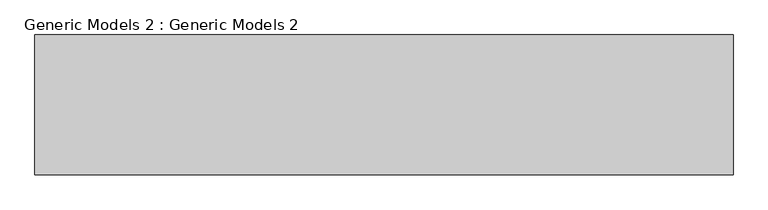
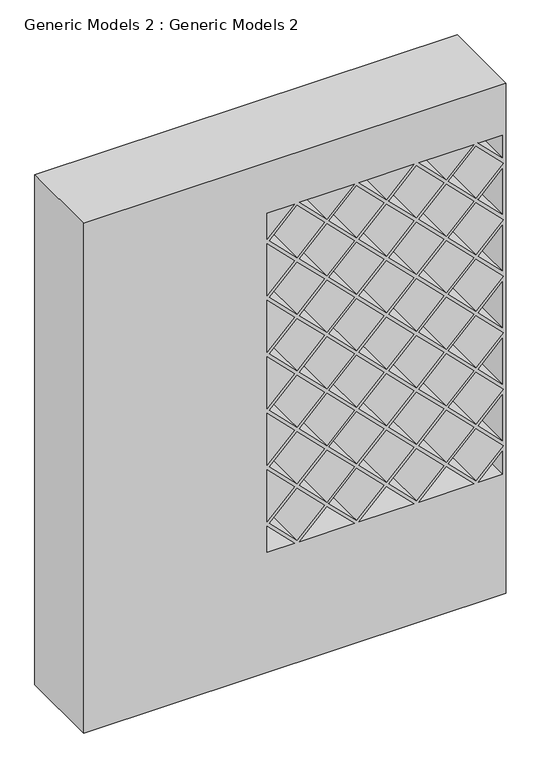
"""IFC4 building model written with IfcOpenShell, lengths in millimetres: proxy geometry, Generic Models 2 : Generic Models 2."""

from ifc_helpers import new_model, si_unit, frame, origin, place, context, project, spatial, polyline, outline, extrude, faceted_brep, source, transform, mapped, element, save


def generic_models_2_generic_models_2_30429d09(model_context):
    return source(origin(), model_context, "Body", "SolidModel", [
        extrude(outline(polyline([(-2100.9899912, -2449.0471901), (-1252.4433837, -2449.0471901), (-1252.4433837, -2465.0471901), (-2100.9899912, -2465.0471901), (-2100.9899912, -2449.0471901)])), frame((0.0, 0.0, 447.5), z_axis=(0.0, 0.0, 1.0), x_axis=(1.0, 0.0, 0.0)), (0.0, 0.0, 1.0), 130.5),
        extrude(outline(polyline([(-1250.4433837, -2449.0471901), (-136.9899912, -2449.0471901), (-136.9899912, -2465.0471901), (-1250.4433837, -2465.0471901), (-1250.4433837, -2449.0471901)])), frame((0.0, 0.0, 316.0), z_axis=(0.0, 0.0, 1.0), x_axis=(1.0, 0.0, 0.0)), (0.0, 0.0, 1.0), 262.0),
        extrude(outline(polyline([(-1250.4433837, -2449.0471901), (-136.9899912, -2449.0471901), (-136.9899912, -2465.0471901), (-1250.4433837, -2465.0471901), (-1250.4433837, -2449.0471901)])), frame((0.0, 0.0, 52.0), z_axis=(0.0, 0.0, 1.0), x_axis=(1.0, 0.0, 0.0)), (0.0, 0.0, 1.0), 262.0),
        extrude(outline(polyline([(-2100.9899912, -2449.0471901), (-1252.4433837, -2449.0471901), (-1252.4433837, -2465.0471901), (-2100.9899912, -2465.0471901), (-2100.9899912, -2449.0471901)])), frame((0.0, 0.0, 52.0), z_axis=(0.0, 0.0, 1.0), x_axis=(1.0, 0.0, 0.0)), (0.0, 0.0, 1.0), 130.5),
        extrude(outline(polyline([(-2100.9899912, -2449.0471901), (-1252.4433837, -2449.0471901), (-1252.4433837, -2465.0471901), (-2100.9899912, -2465.0471901), (-2100.9899912, -2449.0471901)])), frame((0.0, 0.0, 316.0), z_axis=(0.0, 0.0, 1.0), x_axis=(1.0, 0.0, 0.0)), (0.0, 0.0, 1.0), 129.5),
        extrude(outline(polyline([(-2100.9899912, -2449.0471901), (-1252.4433837, -2449.0471901), (-1252.4433837, -2465.0471901), (-2100.9899912, -2465.0471901), (-2100.9899912, -2449.0471901)])), frame((0.0, 0.0, 184.5), z_axis=(0.0, 0.0, 1.0), x_axis=(1.0, 0.0, 0.0)), (0.0, 0.0, 1.0), 129.5),
        extrude(outline(polyline([(-2097.9899912, -2459.0471901), (-1690.7166874, -2459.0471901), (-1690.7166874, -2469.0471901), (-2097.9899912, -2469.0471901), (-2097.9899912, -2459.0471901)])), frame((0.0, 0.0, 605.0), z_axis=(0.0, 0.0, 1.0), x_axis=(1.0, 0.0, 0.0)), (0.0, 0.0, 1.0), 1689.6018345),
        faceted_brep([(-2092.9899912, -2469.0471901, 2289.6018345), (-2092.9899912, -2479.0471901, 2289.6018345), (-2092.9899912, -2479.0471901, 610.0), (-2092.9899912, -2469.0471901, 610.0), (-2097.9899912, -2459.0471901, 2294.6018345), (-2097.9899912, -2469.0471901, 2294.6018345), (-2097.9899912, -2469.0471901, 605.0), (-2097.9899912, -2459.0471901, 605.0), (-2092.9899912, -2449.0471901, 2289.6018345), (-2092.9899912, -2459.0471901, 2289.6018345), (-2092.9899912, -2459.0471901, 610.0), (-2092.9899912, -2449.0471901, 610.0), (-2102.9899912, -2479.0471901, 2299.6018345), (-2102.9899912, -2449.0471901, 2299.6018345), (-2102.9899912, -2449.0471901, 600.0), (-2102.9899912, -2479.0471901, 600.0), (-1695.7166874, -2479.0471901, 610.0), (-1695.7166874, -2469.0471901, 610.0), (-1690.7166874, -2469.0471901, 605.0), (-1690.7166874, -2459.0471901, 605.0), (-1695.7166874, -2459.0471901, 610.0), (-1695.7166874, -2449.0471901, 610.0), (-1685.7166874, -2449.0471901, 600.0), (-1685.7166874, -2479.0471901, 600.0), (-1695.7166874, -2479.0471901, 2289.6018345), (-1695.7166874, -2469.0471901, 2289.6018345), (-1690.7166874, -2469.0471901, 2294.6018345), (-1690.7166874, -2459.0471901, 2294.6018345), (-1695.7166874, -2459.0471901, 2289.6018345), (-1695.7166874, -2449.0471901, 2289.6018345), (-1685.7166874, -2449.0471901, 2299.6018345), (-1685.7166874, -2479.0471901, 2299.6018345)], [[[0, 1, 2, 3]], [[4, 5, 6, 7]], [[8, 9, 10, 11]], [[12, 13, 14, 15]], [[3, 2, 16, 17]], [[7, 6, 18, 19]], [[11, 10, 20, 21]], [[15, 14, 22, 23]], [[17, 16, 24, 25]], [[19, 18, 26, 27]], [[21, 20, 28, 29]], [[23, 22, 30, 31]], [[15, 23, 31, 12], [1, 24, 16, 2]], [[25, 24, 1, 0]], [[5, 26, 18, 6], [3, 17, 25, 0]], [[27, 26, 5, 4]], [[7, 19, 27, 4], [9, 28, 20, 10]], [[29, 28, 9, 8]], [[13, 30, 22, 14], [11, 21, 29, 8]], [[31, 30, 13, 12]]]),
        extrude(outline(polyline([(-1678.7166874, -2459.0471901), (-1271.4433837, -2459.0471901), (-1271.4433837, -2469.0471901), (-1678.7166874, -2469.0471901), (-1678.7166874, -2459.0471901)])), frame((0.0, 0.0, 605.0), z_axis=(0.0, 0.0, 1.0), x_axis=(1.0, 0.0, 0.0)), (0.0, 0.0, 1.0), 1689.6018345),
        faceted_brep([(-1673.7166874, -2469.0471901, 2289.6018345), (-1673.7166874, -2479.0471901, 2289.6018345), (-1673.7166874, -2479.0471901, 610.0), (-1673.7166874, -2469.0471901, 610.0), (-1678.7166874, -2459.0471901, 2294.6018345), (-1678.7166874, -2469.0471901, 2294.6018345), (-1678.7166874, -2469.0471901, 605.0), (-1678.7166874, -2459.0471901, 605.0), (-1673.7166874, -2449.0471901, 2289.6018345), (-1673.7166874, -2459.0471901, 2289.6018345), (-1673.7166874, -2459.0471901, 610.0), (-1673.7166874, -2449.0471901, 610.0), (-1683.7166874, -2479.0471901, 2299.6018345), (-1683.7166874, -2449.0471901, 2299.6018345), (-1683.7166874, -2449.0471901, 600.0), (-1683.7166874, -2479.0471901, 600.0), (-1276.4433837, -2479.0471901, 610.0), (-1276.4433837, -2469.0471901, 610.0), (-1271.4433837, -2469.0471901, 605.0), (-1271.4433837, -2459.0471901, 605.0), (-1276.4433837, -2459.0471901, 610.0), (-1276.4433837, -2449.0471901, 610.0), (-1266.4433837, -2449.0471901, 600.0), (-1266.4433837, -2479.0471901, 600.0), (-1276.4433837, -2479.0471901, 2289.6018345), (-1276.4433837, -2469.0471901, 2289.6018345), (-1271.4433837, -2469.0471901, 2294.6018345), (-1271.4433837, -2459.0471901, 2294.6018345), (-1276.4433837, -2459.0471901, 2289.6018345), (-1276.4433837, -2449.0471901, 2289.6018345), (-1266.4433837, -2449.0471901, 2299.6018345), (-1266.4433837, -2479.0471901, 2299.6018345)], [[[0, 1, 2, 3]], [[4, 5, 6, 7]], [[8, 9, 10, 11]], [[12, 13, 14, 15]], [[3, 2, 16, 17]], [[7, 6, 18, 19]], [[11, 10, 20, 21]], [[15, 14, 22, 23]], [[17, 16, 24, 25]], [[19, 18, 26, 27]], [[21, 20, 28, 29]], [[23, 22, 30, 31]], [[15, 23, 31, 12], [1, 24, 16, 2]], [[25, 24, 1, 0]], [[5, 26, 18, 6], [3, 17, 25, 0]], [[27, 26, 5, 4]], [[7, 19, 27, 4], [9, 28, 20, 10]], [[29, 28, 9, 8]], [[13, 30, 22, 14], [11, 21, 29, 8]], [[31, 30, 13, 12]]]),
        extrude(outline(polyline([(-2102.9899912, -2479.0862427), (-1266.4433837, -2479.0862427), (-1266.4433837, -2835.6862427), (-2102.9899912, -2835.6862427), (-2102.9899912, -2479.0862427)])), frame((0.0, 0.0, 1449.8009172), z_axis=(0.0, 0.0, 1.0), x_axis=(1.0, 0.0, 0.0)), (0.0, 0.0, 1.0), 16.0),
        extrude(outline(polyline([(-2102.9899912, -2479.0862427), (-1266.4433837, -2479.0862427), (-1266.4433837, -2835.6862427), (-2102.9899912, -2835.6862427), (-2102.9899912, -2479.0862427)])), frame((0.0, 0.0, 1874.7013758), z_axis=(0.0, 0.0, 1.0), x_axis=(1.0, 0.0, 0.0)), (0.0, 0.0, 1.0), 16.0),
        extrude(outline(polyline([(-2102.9899912, -2479.0862427), (-1266.4433837, -2479.0862427), (-1266.4433837, -2835.6862427), (-2102.9899912, -2835.6862427), (-2102.9899912, -2479.0862427)])), frame((0.0, 0.0, 1024.9004586), z_axis=(0.0, 0.0, 1.0), x_axis=(1.0, 0.0, 0.0)), (0.0, 0.0, 1.0), 16.0),
        faceted_brep([(-2118.9899912, -2449.0471901, 0.0), (-2118.9899912, -2449.0471901, 2550.0), (-118.9899912, -2449.0471901, 2550.0), (-118.9899912, -2449.0471901, 2157.7922061), (-118.9899912, -2449.0471901, 1872.7922061), (-118.9899912, -2449.0471901, 1589.9494937), (-118.9899912, -2449.0471901, 1305.0), (-118.9899912, -2449.0471901, 1025.0), (-118.9899912, -2449.0471901, 740.0), (-118.9899912, -2449.0471901, 0.0), (-1250.4433837, -2449.0471901, 2166.8660845), (-1120.2616698, -2449.0471901, 2297.0477984), (-1250.4433837, -2449.0471901, 2297.0477984), (-249.0976389, -2449.0471901, 600.0), (-134.9899912, -2449.0471901, 600.0), (-134.9899912, -2449.0471901, 714.1076477), (-249.0891625, -2449.0471901, 2297.0477984), (-134.9899912, -2449.0471901, 2182.9486271), (-134.9899912, -2449.0471901, 2297.0477984), (-130.3036997, -2449.0471901, 2155.6349186), (-260.4113474, -2449.0471901, 2285.7425663), (-390.5189952, -2449.0471901, 2155.6349186), (-260.4113474, -2449.0471901, 2025.5272709), (-401.8327036, -2449.0471901, 2166.9486271), (-271.7335324, -2449.0471901, 2297.0477984), (-531.9318749, -2449.0471901, 2297.0477984), (-413.1464121, -2449.0471901, 2155.6349186), (-543.2540599, -2449.0471901, 2285.7425663), (-673.3617076, -2449.0471901, 2155.6349186), (-543.2540599, -2449.0471901, 2025.5272709), (-684.6754161, -2449.0471901, 2166.9486271), (-554.5762448, -2449.0471901, 2297.0477984), (-814.7745874, -2449.0471901, 2297.0477984), (-695.9891246, -2449.0471901, 2155.6349186), (-826.0967724, -2449.0471901, 2285.7425663), (-956.2044201, -2449.0471901, 2155.6349186), (-826.0967724, -2449.0471901, 2025.5272709), (-967.5181286, -2449.0471901, 2166.9486271), (-837.4189573, -2449.0471901, 2297.0477984), (-1097.6172999, -2449.0471901, 2297.0477984), (-978.8318371, -2449.0471901, 2155.6349186), (-1108.9394848, -2449.0471901, 2285.7425663), (-1239.0471326, -2449.0471901, 2155.6349186), (-1108.9394848, -2449.0471901, 2025.5272709), (-1120.2531933, -2449.0471901, 2014.2135624), (-1250.4433837, -2449.0471901, 2144.4037527), (-1250.4433837, -2449.0471901, 1884.023372), (-249.0976389, -2449.0471901, 2014.2135624), (-134.9899912, -2449.0471901, 1900.1059146), (-134.9899912, -2449.0471901, 2128.3212101), (-260.4113474, -2449.0471901, 1742.6845584), (-130.3036997, -2449.0471901, 1872.7922061), (-260.4113474, -2449.0471901, 2002.8998539), (-390.5189952, -2449.0471901, 1872.7922061), (-249.0976389, -2449.0471901, 1731.3708499), (-134.9899912, -2449.0471901, 1617.2632022), (-134.9899912, -2449.0471901, 1845.4784976), (-1120.2531933, -2449.0471901, 1731.3708499), (-1250.4433837, -2449.0471901, 1861.5610403), (-1250.4433837, -2449.0471901, 1601.1806595), (-1108.9394848, -2449.0471901, 1742.6845584), (-978.8318371, -2449.0471901, 1872.7922061), (-1108.9394848, -2449.0471901, 2002.8998539), (-1239.0471326, -2449.0471901, 1872.7922061), (-249.0976389, -2449.0471901, 1448.5281374), (-134.9899912, -2449.0471901, 1334.4204897), (-134.9899912, -2449.0471901, 1562.6357852), (-260.4113474, -2449.0471901, 1459.8418459), (-130.3036997, -2449.0471901, 1589.9494937), (-260.4113474, -2449.0471901, 1720.0571414), (-390.5189952, -2449.0471901, 1589.9494937), (-249.0976389, -2449.0471901, 1165.6854249), (-134.9899912, -2449.0471901, 1051.5777772), (-134.9899912, -2449.0471901, 1279.7930727), (-260.4113474, -2449.0471901, 1176.9991334), (-130.3036997, -2449.0471901, 1307.1067812), (-260.4113474, -2449.0471901, 1437.2144289), (-390.5189952, -2449.0471901, 1307.1067812), (-1108.9394848, -2449.0471901, 1459.8418459), (-978.8318371, -2449.0471901, 1589.9494937), (-1108.9394848, -2449.0471901, 1720.0571414), (-1239.0471326, -2449.0471901, 1589.9494937), (-1120.2531933, -2449.0471901, 1448.5281374), (-1250.4433837, -2449.0471901, 1578.7183278), (-1250.4433837, -2449.0471901, 1318.3379471), (-1120.2531933, -2449.0471901, 1165.6854249), (-1250.4433837, -2449.0471901, 1295.8756153), (-1250.4433837, -2449.0471901, 1035.4952346), (-1108.9394848, -2449.0471901, 1176.9991334), (-978.8318371, -2449.0471901, 1307.1067812), (-1108.9394848, -2449.0471901, 1437.2144289), (-1239.0471326, -2449.0471901, 1307.1067812), (-1108.9394848, -2449.0471901, 894.156421), (-978.8318371, -2449.0471901, 1024.2640687), (-1108.9394848, -2449.0471901, 1154.3717165), (-1239.0471326, -2449.0471901, 1024.2640687), (-1120.2531933, -2449.0471901, 882.8427125), (-1250.4433837, -2449.0471901, 1013.0329028), (-1250.4433837, -2449.0471901, 752.6525221), (-1108.9394848, -2449.0471901, 611.3137085), (-978.8318371, -2449.0471901, 741.4213562), (-1108.9394848, -2449.0471901, 871.529004), (-1239.0471326, -2449.0471901, 741.4213562), (-1120.2531933, -2449.0471901, 600.0), (-1250.4433837, -2449.0471901, 730.1901904), (-1250.4433837, -2449.0471901, 600.0), (-260.4113474, -2449.0471901, 894.156421), (-130.3036997, -2449.0471901, 1024.2640687), (-260.4113474, -2449.0471901, 1154.3717165), (-390.5189952, -2449.0471901, 1024.2640687), (-249.0976389, -2449.0471901, 882.8427125), (-134.9899912, -2449.0471901, 768.7350647), (-134.9899912, -2449.0471901, 996.9503602), (-260.4113474, -2449.0471901, 611.3137085), (-130.3036997, -2449.0471901, 741.4213562), (-260.4113474, -2449.0471901, 871.529004), (-390.5189952, -2449.0471901, 741.4213562), (-967.5181286, -2449.0471901, 752.7350647), (-837.4104809, -2449.0471901, 882.8427125), (-967.5181286, -2449.0471901, 1012.9503602), (-1097.6257763, -2449.0471901, 882.8427125), (-1097.6257763, -2449.0471901, 600.0), (-837.4104809, -2449.0471901, 600.0), (-967.5181286, -2449.0471901, 730.1076477), (-826.0967724, -2449.0471901, 611.3137085), (-695.9891246, -2449.0471901, 741.4213562), (-826.0967724, -2449.0471901, 871.529004), (-956.2044201, -2449.0471901, 741.4213562), (-543.2540599, -2449.0471901, 611.3137085), (-413.1464121, -2449.0471901, 741.4213562), (-543.2540599, -2449.0471901, 871.529004), (-673.3617076, -2449.0471901, 741.4213562), (-554.5677684, -2449.0471901, 600.0), (-684.6754161, -2449.0471901, 730.1076477), (-814.7830639, -2449.0471901, 600.0), (-271.7250559, -2449.0471901, 600.0), (-401.8327036, -2449.0471901, 730.1076477), (-531.9403514, -2449.0471901, 600.0), (-401.8327036, -2449.0471901, 752.7350647), (-271.7250559, -2449.0471901, 882.8427125), (-401.8327036, -2449.0471901, 1012.9503602), (-531.9403514, -2449.0471901, 882.8427125), (-543.2540599, -2449.0471901, 894.156421), (-413.1464121, -2449.0471901, 1024.2640687), (-543.2540599, -2449.0471901, 1154.3717165), (-673.3617076, -2449.0471901, 1024.2640687), (-684.6754161, -2449.0471901, 752.7350647), (-554.5677684, -2449.0471901, 882.8427125), (-684.6754161, -2449.0471901, 1012.9503602), (-814.7830639, -2449.0471901, 882.8427125), (-826.0967724, -2449.0471901, 894.156421), (-695.9891246, -2449.0471901, 1024.2640687), (-826.0967724, -2449.0471901, 1154.3717165), (-956.2044201, -2449.0471901, 1024.2640687), (-967.5181286, -2449.0471901, 1035.5777772), (-837.4104809, -2449.0471901, 1165.6854249), (-967.5181286, -2449.0471901, 1295.7930727), (-1097.6257763, -2449.0471901, 1165.6854249), (-826.0967724, -2449.0471901, 1176.9991334), (-695.9891246, -2449.0471901, 1307.1067812), (-826.0967724, -2449.0471901, 1437.2144289), (-956.2044201, -2449.0471901, 1307.1067812), (-967.5181286, -2449.0471901, 1318.4204897), (-837.4104809, -2449.0471901, 1448.5281374), (-967.5181286, -2449.0471901, 1578.6357852), (-1097.6257763, -2449.0471901, 1448.5281374), (-684.6754161, -2449.0471901, 1035.5777772), (-554.5677684, -2449.0471901, 1165.6854249), (-684.6754161, -2449.0471901, 1295.7930727), (-814.7830639, -2449.0471901, 1165.6854249), (-684.6754161, -2449.0471901, 1318.4204897), (-554.5677684, -2449.0471901, 1448.5281374), (-684.6754161, -2449.0471901, 1578.6357852), (-814.7830639, -2449.0471901, 1448.5281374), (-543.2540599, -2449.0471901, 1176.9991334), (-413.1464121, -2449.0471901, 1307.1067812), (-543.2540599, -2449.0471901, 1437.2144289), (-673.3617076, -2449.0471901, 1307.1067812), (-401.8327036, -2449.0471901, 1035.5777772), (-271.7250559, -2449.0471901, 1165.6854249), (-401.8327036, -2449.0471901, 1295.7930727), (-531.9403514, -2449.0471901, 1165.6854249), (-401.8327036, -2449.0471901, 1318.4204897), (-271.7250559, -2449.0471901, 1448.5281374), (-401.8327036, -2449.0471901, 1578.6357852), (-531.9403514, -2449.0471901, 1448.5281374), (-401.8327036, -2449.0471901, 1601.2632022), (-271.7250559, -2449.0471901, 1731.3708499), (-401.8327036, -2449.0471901, 1861.4784976), (-531.9403514, -2449.0471901, 1731.3708499), (-543.2540599, -2449.0471901, 1459.8418459), (-413.1464121, -2449.0471901, 1589.9494937), (-543.2540599, -2449.0471901, 1720.0571414), (-673.3617076, -2449.0471901, 1589.9494937), (-684.6754161, -2449.0471901, 1601.2632022), (-554.5677684, -2449.0471901, 1731.3708499), (-684.6754161, -2449.0471901, 1861.4784976), (-814.7830639, -2449.0471901, 1731.3708499), (-826.0967724, -2449.0471901, 1459.8418459), (-695.9891246, -2449.0471901, 1589.9494937), (-826.0967724, -2449.0471901, 1720.0571414), (-956.2044201, -2449.0471901, 1589.9494937), (-967.5181286, -2449.0471901, 1601.2632022), (-837.4104809, -2449.0471901, 1731.3708499), (-967.5181286, -2449.0471901, 1861.4784976), (-1097.6257763, -2449.0471901, 1731.3708499), (-543.2540599, -2449.0471901, 1742.6845584), (-413.1464121, -2449.0471901, 1872.7922061), (-543.2540599, -2449.0471901, 2002.8998539), (-673.3617076, -2449.0471901, 1872.7922061), (-826.0967724, -2449.0471901, 1742.6845584), (-695.9891246, -2449.0471901, 1872.7922061), (-826.0967724, -2449.0471901, 2002.8998539), (-956.2044201, -2449.0471901, 1872.7922061), (-967.5181286, -2449.0471901, 1884.1059146), (-837.4104809, -2449.0471901, 2014.2135624), (-967.5181286, -2449.0471901, 2144.3212101), (-1097.6257763, -2449.0471901, 2014.2135624), (-684.6754161, -2449.0471901, 1884.1059146), (-554.5677684, -2449.0471901, 2014.2135624), (-684.6754161, -2449.0471901, 2144.3212101), (-814.7830639, -2449.0471901, 2014.2135624), (-401.8327036, -2449.0471901, 1884.1059146), (-271.7250559, -2449.0471901, 2014.2135624), (-401.8327036, -2449.0471901, 2144.3212101), (-531.9403514, -2449.0471901, 2014.2135624), (-1266.4433837, -2449.0471901, 2299.6018345), (-2102.9899912, -2449.0471901, 2299.6018345), (-2102.9899912, -2449.0471901, 600.0), (-1266.4433837, -2449.0471901, 600.0), (-2102.9899912, -2449.0471901, 580.0), (-2102.9899912, -2449.0471901, 50.0), (-134.9899912, -2449.0471901, 50.0), (-134.9899912, -2449.0471901, 580.0), (-2118.9899912, -2849.0471901, 0.0), (-118.9899912, -2849.0471901, 0.0), (-118.9899912, -2849.0471901, 740.0), (-118.9899912, -2849.0471901, 1025.0), (-118.9899912, -2849.0471901, 1305.0), (-118.9899912, -2849.0471901, 1589.9494937), (-118.9899912, -2849.0471901, 1872.7922061), (-118.9899912, -2849.0471901, 2157.7922061), (-118.9899912, -2849.0471901, 2550.0), (-2118.9899912, -2849.0471901, 2550.0), (-1250.4433837, -2849.0471901, 2166.8660845), (-1250.4433837, -2849.0471901, 2297.0477984), (-1120.2616698, -2849.0471901, 2297.0477984), (-249.0976389, -2849.0471901, 600.0), (-134.9899912, -2849.0471901, 714.1076477), (-134.9899912, -2849.0471901, 600.0), (-249.0891625, -2849.0471901, 2297.0477984), (-134.9899912, -2849.0471901, 2297.0477984), (-134.9899912, -2849.0471901, 2182.9486271), (-130.3036997, -2849.0471901, 2155.6349186), (-260.4113474, -2849.0471901, 2025.5272709), (-390.5189952, -2849.0471901, 2155.6349186), (-260.4113474, -2849.0471901, 2285.7425663), (-401.8327036, -2849.0471901, 2166.9486271), (-531.9318749, -2849.0471901, 2297.0477984), (-271.7335324, -2849.0471901, 2297.0477984), (-413.1464121, -2849.0471901, 2155.6349186), (-543.2540599, -2849.0471901, 2025.5272709), (-673.3617076, -2849.0471901, 2155.6349186), (-543.2540599, -2849.0471901, 2285.7425663), (-684.6754161, -2849.0471901, 2166.9486271), (-814.7745874, -2849.0471901, 2297.0477984), (-554.5762448, -2849.0471901, 2297.0477984), (-695.9891246, -2849.0471901, 2155.6349186), (-826.0967724, -2849.0471901, 2025.5272709), (-956.2044201, -2849.0471901, 2155.6349186), (-826.0967724, -2849.0471901, 2285.7425663), (-967.5181286, -2849.0471901, 2166.9486271), (-1097.6172999, -2849.0471901, 2297.0477984), (-837.4189573, -2849.0471901, 2297.0477984), (-978.8318371, -2849.0471901, 2155.6349186), (-1108.9394848, -2849.0471901, 2025.5272709), (-1239.0471326, -2849.0471901, 2155.6349186), (-1108.9394848, -2849.0471901, 2285.7425663), (-1120.2531933, -2849.0471901, 2014.2135624), (-1250.4433837, -2849.0471901, 1884.023372), (-1250.4433837, -2849.0471901, 2144.4037527), (-249.0976389, -2849.0471901, 2014.2135624), (-134.9899912, -2849.0471901, 2128.3212101), (-134.9899912, -2849.0471901, 1900.1059146), (-260.4113474, -2849.0471901, 1742.6845584), (-390.5189952, -2849.0471901, 1872.7922061), (-260.4113474, -2849.0471901, 2002.8998539), (-130.3036997, -2849.0471901, 1872.7922061), (-249.0976389, -2849.0471901, 1731.3708499), (-134.9899912, -2849.0471901, 1845.4784976), (-134.9899912, -2849.0471901, 1617.2632022), (-1120.2531933, -2849.0471901, 1731.3708499), (-1250.4433837, -2849.0471901, 1601.1806595), (-1250.4433837, -2849.0471901, 1861.5610403), (-1108.9394848, -2849.0471901, 1742.6845584), (-1239.0471326, -2849.0471901, 1872.7922061), (-1108.9394848, -2849.0471901, 2002.8998539), (-978.8318371, -2849.0471901, 1872.7922061), (-249.0976389, -2849.0471901, 1448.5281374), (-134.9899912, -2849.0471901, 1562.6357852), (-134.9899912, -2849.0471901, 1334.4204897), (-260.4113474, -2849.0471901, 1459.8418459), (-390.5189952, -2849.0471901, 1589.9494937), (-260.4113474, -2849.0471901, 1720.0571414), (-130.3036997, -2849.0471901, 1589.9494937), (-249.0976389, -2849.0471901, 1165.6854249), (-134.9899912, -2849.0471901, 1279.7930727), (-134.9899912, -2849.0471901, 1051.5777772), (-260.4113474, -2849.0471901, 1176.9991334), (-390.5189952, -2849.0471901, 1307.1067812), (-260.4113474, -2849.0471901, 1437.2144289), (-130.3036997, -2849.0471901, 1307.1067812), (-1108.9394848, -2849.0471901, 1459.8418459), (-1239.0471326, -2849.0471901, 1589.9494937), (-1108.9394848, -2849.0471901, 1720.0571414), (-978.8318371, -2849.0471901, 1589.9494937), (-1120.2531933, -2849.0471901, 1448.5281374), (-1250.4433837, -2849.0471901, 1318.3379471), (-1250.4433837, -2849.0471901, 1578.7183278), (-1120.2531933, -2849.0471901, 1165.6854249), (-1250.4433837, -2849.0471901, 1035.4952346), (-1250.4433837, -2849.0471901, 1295.8756153), (-1108.9394848, -2849.0471901, 1176.9991334), (-1239.0471326, -2849.0471901, 1307.1067812), (-1108.9394848, -2849.0471901, 1437.2144289), (-978.8318371, -2849.0471901, 1307.1067812), (-1108.9394848, -2849.0471901, 894.156421), (-1239.0471326, -2849.0471901, 1024.2640687), (-1108.9394848, -2849.0471901, 1154.3717165), (-978.8318371, -2849.0471901, 1024.2640687), (-1120.2531933, -2849.0471901, 882.8427125), (-1250.4433837, -2849.0471901, 752.6525221), (-1250.4433837, -2849.0471901, 1013.0329028), (-1108.9394848, -2849.0471901, 611.3137085), (-1239.0471326, -2849.0471901, 741.4213562), (-1108.9394848, -2849.0471901, 871.529004), (-978.8318371, -2849.0471901, 741.4213562), (-1120.2531933, -2849.0471901, 600.0), (-1250.4433837, -2849.0471901, 600.0), (-1250.4433837, -2849.0471901, 730.1901904), (-260.4113474, -2849.0471901, 894.156421), (-390.5189952, -2849.0471901, 1024.2640687), (-260.4113474, -2849.0471901, 1154.3717165), (-130.3036997, -2849.0471901, 1024.2640687), (-249.0976389, -2849.0471901, 882.8427125), (-134.9899912, -2849.0471901, 996.9503602), (-134.9899912, -2849.0471901, 768.7350647), (-260.4113474, -2849.0471901, 611.3137085), (-390.5189952, -2849.0471901, 741.4213562), (-260.4113474, -2849.0471901, 871.529004), (-130.3036997, -2849.0471901, 741.4213562), (-967.5181286, -2849.0471901, 752.7350647), (-1097.6257763, -2849.0471901, 882.8427125), (-967.5181286, -2849.0471901, 1012.9503602), (-837.4104809, -2849.0471901, 882.8427125), (-1097.6257763, -2849.0471901, 600.0), (-967.5181286, -2849.0471901, 730.1076477), (-837.4104809, -2849.0471901, 600.0), (-826.0967724, -2849.0471901, 611.3137085), (-956.2044201, -2849.0471901, 741.4213562), (-826.0967724, -2849.0471901, 871.529004), (-695.9891246, -2849.0471901, 741.4213562), (-543.2540599, -2849.0471901, 611.3137085), (-673.3617076, -2849.0471901, 741.4213562), (-543.2540599, -2849.0471901, 871.529004), (-413.1464121, -2849.0471901, 741.4213562), (-554.5677684, -2849.0471901, 600.0), (-814.7830639, -2849.0471901, 600.0), (-684.6754161, -2849.0471901, 730.1076477), (-271.7250559, -2849.0471901, 600.0), (-531.9403514, -2849.0471901, 600.0), (-401.8327036, -2849.0471901, 730.1076477), (-401.8327036, -2849.0471901, 752.7350647), (-531.9403514, -2849.0471901, 882.8427125), (-401.8327036, -2849.0471901, 1012.9503602), (-271.7250559, -2849.0471901, 882.8427125), (-543.2540599, -2849.0471901, 894.156421), (-673.3617076, -2849.0471901, 1024.2640687), (-543.2540599, -2849.0471901, 1154.3717165), (-413.1464121, -2849.0471901, 1024.2640687), (-684.6754161, -2849.0471901, 752.7350647), (-814.7830639, -2849.0471901, 882.8427125), (-684.6754161, -2849.0471901, 1012.9503602), (-554.5677684, -2849.0471901, 882.8427125), (-826.0967724, -2849.0471901, 894.156421), (-956.2044201, -2849.0471901, 1024.2640687), (-826.0967724, -2849.0471901, 1154.3717165), (-695.9891246, -2849.0471901, 1024.2640687), (-967.5181286, -2849.0471901, 1035.5777772), (-1097.6257763, -2849.0471901, 1165.6854249), (-967.5181286, -2849.0471901, 1295.7930727), (-837.4104809, -2849.0471901, 1165.6854249), (-826.0967724, -2849.0471901, 1176.9991334), (-956.2044201, -2849.0471901, 1307.1067812), (-826.0967724, -2849.0471901, 1437.2144289), (-695.9891246, -2849.0471901, 1307.1067812), (-967.5181286, -2849.0471901, 1318.4204897), (-1097.6257763, -2849.0471901, 1448.5281374), (-967.5181286, -2849.0471901, 1578.6357852), (-837.4104809, -2849.0471901, 1448.5281374), (-684.6754161, -2849.0471901, 1035.5777772), (-814.7830639, -2849.0471901, 1165.6854249), (-684.6754161, -2849.0471901, 1295.7930727), (-554.5677684, -2849.0471901, 1165.6854249), (-684.6754161, -2849.0471901, 1318.4204897), (-814.7830639, -2849.0471901, 1448.5281374), (-684.6754161, -2849.0471901, 1578.6357852), (-554.5677684, -2849.0471901, 1448.5281374), (-543.2540599, -2849.0471901, 1176.9991334), (-673.3617076, -2849.0471901, 1307.1067812), (-543.2540599, -2849.0471901, 1437.2144289), (-413.1464121, -2849.0471901, 1307.1067812), (-401.8327036, -2849.0471901, 1035.5777772), (-531.9403514, -2849.0471901, 1165.6854249), (-401.8327036, -2849.0471901, 1295.7930727), (-271.7250559, -2849.0471901, 1165.6854249), (-401.8327036, -2849.0471901, 1318.4204897), (-531.9403514, -2849.0471901, 1448.5281374), (-401.8327036, -2849.0471901, 1578.6357852), (-271.7250559, -2849.0471901, 1448.5281374), (-401.8327036, -2849.0471901, 1601.2632022), (-531.9403514, -2849.0471901, 1731.3708499), (-401.8327036, -2849.0471901, 1861.4784976), (-271.7250559, -2849.0471901, 1731.3708499), (-543.2540599, -2849.0471901, 1459.8418459), (-673.3617076, -2849.0471901, 1589.9494937), (-543.2540599, -2849.0471901, 1720.0571414), (-413.1464121, -2849.0471901, 1589.9494937), (-684.6754161, -2849.0471901, 1601.2632022), (-814.7830639, -2849.0471901, 1731.3708499), (-684.6754161, -2849.0471901, 1861.4784976), (-554.5677684, -2849.0471901, 1731.3708499), (-826.0967724, -2849.0471901, 1459.8418459), (-956.2044201, -2849.0471901, 1589.9494937), (-826.0967724, -2849.0471901, 1720.0571414), (-695.9891246, -2849.0471901, 1589.9494937), (-967.5181286, -2849.0471901, 1601.2632022), (-1097.6257763, -2849.0471901, 1731.3708499), (-967.5181286, -2849.0471901, 1861.4784976), (-837.4104809, -2849.0471901, 1731.3708499), (-543.2540599, -2849.0471901, 1742.6845584), (-673.3617076, -2849.0471901, 1872.7922061), (-543.2540599, -2849.0471901, 2002.8998539), (-413.1464121, -2849.0471901, 1872.7922061), (-826.0967724, -2849.0471901, 1742.6845584), (-956.2044201, -2849.0471901, 1872.7922061), (-826.0967724, -2849.0471901, 2002.8998539), (-695.9891246, -2849.0471901, 1872.7922061), (-967.5181286, -2849.0471901, 1884.1059146), (-1097.6257763, -2849.0471901, 2014.2135624), (-967.5181286, -2849.0471901, 2144.3212101), (-837.4104809, -2849.0471901, 2014.2135624), (-684.6754161, -2849.0471901, 1884.1059146), (-814.7830639, -2849.0471901, 2014.2135624), (-684.6754161, -2849.0471901, 2144.3212101), (-554.5677684, -2849.0471901, 2014.2135624), (-401.8327036, -2849.0471901, 1884.1059146), (-531.9403514, -2849.0471901, 2014.2135624), (-401.8327036, -2849.0471901, 2144.3212101), (-271.7250559, -2849.0471901, 2014.2135624), (-1266.4433837, -2835.6862427, 2299.6018345), (-1266.4433837, -2835.6862427, 600.0), (-2102.9899912, -2835.6862427, 600.0), (-2102.9899912, -2835.6862427, 2299.6018345), (-2102.9899912, -2465.0471901, 580.0), (-134.9899912, -2465.0471901, 580.0), (-134.9899912, -2465.0471901, 50.0), (-2102.9899912, -2465.0471901, 50.0)], [[[0, 1, 2, 3, 4, 5, 6, 7, 8, 9], [10, 11, 12], [13, 14, 15], [16, 17, 18], [19, 20, 21, 22], [23, 24, 25], [26, 27, 28, 29], [30, 31, 32], [33, 34, 35, 36], [37, 38, 39], [40, 41, 42, 43], [44, 45, 46], [47, 48, 49], [50, 51, 52, 53], [54, 55, 56], [57, 58, 59], [60, 61, 62, 63], [64, 65, 66], [67, 68, 69, 70], [71, 72, 73], [74, 75, 76, 77], [78, 79, 80, 81], [82, 83, 84], [85, 86, 87], [88, 89, 90, 91], [92, 93, 94, 95], [96, 97, 98], [99, 100, 101, 102], [103, 104, 105], [106, 107, 108, 109], [110, 111, 112], [113, 114, 115, 116], [117, 118, 119, 120], [121, 122, 123], [124, 125, 126, 127], [128, 129, 130, 131], [132, 133, 134], [135, 136, 137], [138, 139, 140, 141], [142, 143, 144, 145], [146, 147, 148, 149], [150, 151, 152, 153], [154, 155, 156, 157], [158, 159, 160, 161], [162, 163, 164, 165], [166, 167, 168, 169], [170, 171, 172, 173], [174, 175, 176, 177], [178, 179, 180, 181], [182, 183, 184, 185], [186, 187, 188, 189], [190, 191, 192, 193], [194, 195, 196, 197], [198, 199, 200, 201], [202, 203, 204, 205], [206, 207, 208, 209], [210, 211, 212, 213], [214, 215, 216, 217], [218, 219, 220, 221], [222, 223, 224, 225], [226, 227, 228, 229], [230, 231, 232, 233]], [[234, 235, 236, 237, 238, 239, 240, 241, 242, 243], [244, 245, 246], [247, 248, 249], [250, 251, 252], [253, 254, 255, 256], [257, 258, 259], [260, 261, 262, 263], [264, 265, 266], [267, 268, 269, 270], [271, 272, 273], [274, 275, 276, 277], [278, 279, 280], [281, 282, 283], [284, 285, 286, 287], [288, 289, 290], [291, 292, 293], [294, 295, 296, 297], [298, 299, 300], [301, 302, 303, 304], [305, 306, 307], [308, 309, 310, 311], [312, 313, 314, 315], [316, 317, 318], [319, 320, 321], [322, 323, 324, 325], [326, 327, 328, 329], [330, 331, 332], [333, 334, 335, 336], [337, 338, 339], [340, 341, 342, 343], [344, 345, 346], [347, 348, 349, 350], [351, 352, 353, 354], [355, 356, 357], [358, 359, 360, 361], [362, 363, 364, 365], [366, 367, 368], [369, 370, 371], [372, 373, 374, 375], [376, 377, 378, 379], [380, 381, 382, 383], [384, 385, 386, 387], [388, 389, 390, 391], [392, 393, 394, 395], [396, 397, 398, 399], [400, 401, 402, 403], [404, 405, 406, 407], [408, 409, 410, 411], [412, 413, 414, 415], [416, 417, 418, 419], [420, 421, 422, 423], [424, 425, 426, 427], [428, 429, 430, 431], [432, 433, 434, 435], [436, 437, 438, 439], [440, 441, 442, 443], [444, 445, 446, 447], [448, 449, 450, 451], [452, 453, 454, 455], [456, 457, 458, 459]], [[1, 0, 234, 243]], [[2, 1, 243, 242]], [[3, 2, 242, 241]], [[4, 3, 241, 240]], [[5, 4, 240, 239]], [[6, 5, 239, 238]], [[7, 6, 238, 237]], [[8, 7, 237, 236]], [[9, 8, 236, 235]], [[0, 9, 235, 234]], [[11, 10, 244, 246]], [[12, 11, 246, 245]], [[10, 12, 245, 244]], [[14, 13, 247, 249]], [[15, 14, 249, 248]], [[13, 15, 248, 247]], [[17, 16, 250, 252]], [[18, 17, 252, 251]], [[16, 18, 251, 250]], [[20, 19, 253, 256]], [[21, 20, 256, 255]], [[22, 21, 255, 254]], [[19, 22, 254, 253]], [[24, 23, 257, 259]], [[25, 24, 259, 258]], [[23, 25, 258, 257]], [[27, 26, 260, 263]], [[28, 27, 263, 262]], [[29, 28, 262, 261]], [[26, 29, 261, 260]], [[31, 30, 264, 266]], [[32, 31, 266, 265]], [[30, 32, 265, 264]], [[34, 33, 267, 270]], [[35, 34, 270, 269]], [[36, 35, 269, 268]], [[33, 36, 268, 267]], [[38, 37, 271, 273]], [[39, 38, 273, 272]], [[37, 39, 272, 271]], [[41, 40, 274, 277]], [[42, 41, 277, 276]], [[43, 42, 276, 275]], [[40, 43, 275, 274]], [[45, 44, 278, 280]], [[46, 45, 280, 279]], [[44, 46, 279, 278]], [[48, 47, 281, 283]], [[49, 48, 283, 282]], [[47, 49, 282, 281]], [[51, 50, 284, 287]], [[52, 51, 287, 286]], [[53, 52, 286, 285]], [[50, 53, 285, 284]], [[55, 54, 288, 290]], [[56, 55, 290, 289]], [[54, 56, 289, 288]], [[58, 57, 291, 293]], [[59, 58, 293, 292]], [[57, 59, 292, 291]], [[61, 60, 294, 297]], [[62, 61, 297, 296]], [[63, 62, 296, 295]], [[60, 63, 295, 294]], [[65, 64, 298, 300]], [[66, 65, 300, 299]], [[64, 66, 299, 298]], [[68, 67, 301, 304]], [[69, 68, 304, 303]], [[70, 69, 303, 302]], [[67, 70, 302, 301]], [[72, 71, 305, 307]], [[73, 72, 307, 306]], [[71, 73, 306, 305]], [[75, 74, 308, 311]], [[76, 75, 311, 310]], [[77, 76, 310, 309]], [[74, 77, 309, 308]], [[79, 78, 312, 315]], [[80, 79, 315, 314]], [[81, 80, 314, 313]], [[78, 81, 313, 312]], [[83, 82, 316, 318]], [[84, 83, 318, 317]], [[82, 84, 317, 316]], [[86, 85, 319, 321]], [[87, 86, 321, 320]], [[85, 87, 320, 319]], [[89, 88, 322, 325]], [[90, 89, 325, 324]], [[91, 90, 324, 323]], [[88, 91, 323, 322]], [[93, 92, 326, 329]], [[94, 93, 329, 328]], [[95, 94, 328, 327]], [[92, 95, 327, 326]], [[97, 96, 330, 332]], [[98, 97, 332, 331]], [[96, 98, 331, 330]], [[100, 99, 333, 336]], [[101, 100, 336, 335]], [[102, 101, 335, 334]], [[99, 102, 334, 333]], [[104, 103, 337, 339]], [[105, 104, 339, 338]], [[103, 105, 338, 337]], [[107, 106, 340, 343]], [[108, 107, 343, 342]], [[109, 108, 342, 341]], [[106, 109, 341, 340]], [[111, 110, 344, 346]], [[112, 111, 346, 345]], [[110, 112, 345, 344]], [[114, 113, 347, 350]], [[115, 114, 350, 349]], [[116, 115, 349, 348]], [[113, 116, 348, 347]], [[118, 117, 351, 354]], [[119, 118, 354, 353]], [[120, 119, 353, 352]], [[117, 120, 352, 351]], [[122, 121, 355, 357]], [[123, 122, 357, 356]], [[121, 123, 356, 355]], [[125, 124, 358, 361]], [[126, 125, 361, 360]], [[127, 126, 360, 359]], [[124, 127, 359, 358]], [[129, 128, 362, 365]], [[130, 129, 365, 364]], [[131, 130, 364, 363]], [[128, 131, 363, 362]], [[133, 132, 366, 368]], [[134, 133, 368, 367]], [[132, 134, 367, 366]], [[136, 135, 369, 371]], [[137, 136, 371, 370]], [[135, 137, 370, 369]], [[139, 138, 372, 375]], [[140, 139, 375, 374]], [[141, 140, 374, 373]], [[138, 141, 373, 372]], [[143, 142, 376, 379]], [[144, 143, 379, 378]], [[145, 144, 378, 377]], [[142, 145, 377, 376]], [[147, 146, 380, 383]], [[148, 147, 383, 382]], [[149, 148, 382, 381]], [[146, 149, 381, 380]], [[151, 150, 384, 387]], [[152, 151, 387, 386]], [[153, 152, 386, 385]], [[150, 153, 385, 384]], [[155, 154, 388, 391]], [[156, 155, 391, 390]], [[157, 156, 390, 389]], [[154, 157, 389, 388]], [[159, 158, 392, 395]], [[160, 159, 395, 394]], [[161, 160, 394, 393]], [[158, 161, 393, 392]], [[163, 162, 396, 399]], [[164, 163, 399, 398]], [[165, 164, 398, 397]], [[162, 165, 397, 396]], [[167, 166, 400, 403]], [[168, 167, 403, 402]], [[169, 168, 402, 401]], [[166, 169, 401, 400]], [[171, 170, 404, 407]], [[172, 171, 407, 406]], [[173, 172, 406, 405]], [[170, 173, 405, 404]], [[175, 174, 408, 411]], [[176, 175, 411, 410]], [[177, 176, 410, 409]], [[174, 177, 409, 408]], [[179, 178, 412, 415]], [[180, 179, 415, 414]], [[181, 180, 414, 413]], [[178, 181, 413, 412]], [[183, 182, 416, 419]], [[184, 183, 419, 418]], [[185, 184, 418, 417]], [[182, 185, 417, 416]], [[187, 186, 420, 423]], [[188, 187, 423, 422]], [[189, 188, 422, 421]], [[186, 189, 421, 420]], [[191, 190, 424, 427]], [[192, 191, 427, 426]], [[193, 192, 426, 425]], [[190, 193, 425, 424]], [[195, 194, 428, 431]], [[196, 195, 431, 430]], [[197, 196, 430, 429]], [[194, 197, 429, 428]], [[199, 198, 432, 435]], [[200, 199, 435, 434]], [[201, 200, 434, 433]], [[198, 201, 433, 432]], [[203, 202, 436, 439]], [[204, 203, 439, 438]], [[205, 204, 438, 437]], [[202, 205, 437, 436]], [[207, 206, 440, 443]], [[208, 207, 443, 442]], [[209, 208, 442, 441]], [[206, 209, 441, 440]], [[211, 210, 444, 447]], [[212, 211, 447, 446]], [[213, 212, 446, 445]], [[210, 213, 445, 444]], [[215, 214, 448, 451]], [[216, 215, 451, 450]], [[217, 216, 450, 449]], [[214, 217, 449, 448]], [[219, 218, 452, 455]], [[220, 219, 455, 454]], [[221, 220, 454, 453]], [[218, 221, 453, 452]], [[223, 222, 456, 459]], [[224, 223, 459, 458]], [[225, 224, 458, 457]], [[222, 225, 457, 456]], [[460, 461, 462, 463]], [[460, 463, 227, 226]], [[463, 462, 228, 227]], [[461, 460, 226, 229]], [[462, 461, 229, 228]], [[464, 465, 466, 467]], [[464, 467, 231, 230]], [[467, 466, 232, 231]], [[466, 465, 233, 232]], [[465, 464, 230, 233]]]),
    ])


if __name__ == "__main__":
    model = new_model("IFC4")
    model_context = context("Model", 3, world=origin())
    ifc_project = project(units=[si_unit("LENGTHUNIT", "METRE", prefix="MILLI")], contexts=[model_context])
    site = spatial("IfcSite", under=ifc_project)
    building = spatial("IfcBuilding", under=site)
    placement = place(None, origin())
    generic_models_2_generic_models_2_shape = generic_models_2_generic_models_2_30429d09(model_context)
    element("IfcBuildingElementProxy", 1, Name="Generic Models 2 : Generic Models 2", ObjectType="Generic Models 2 : Generic Models 2", at=placement, inside=building, context=model_context, shape_type="MappedRepresentation", body=[
        mapped(generic_models_2_generic_models_2_shape, transform((0.0, 0.0, 0.0), x_axis=(1.0, 0.0, 0.0), y_axis=(0.0, 1.0, 0.0), z_axis=(0.0, 0.0, 1.0))),
    ])
    save(model, "model.ifc")
